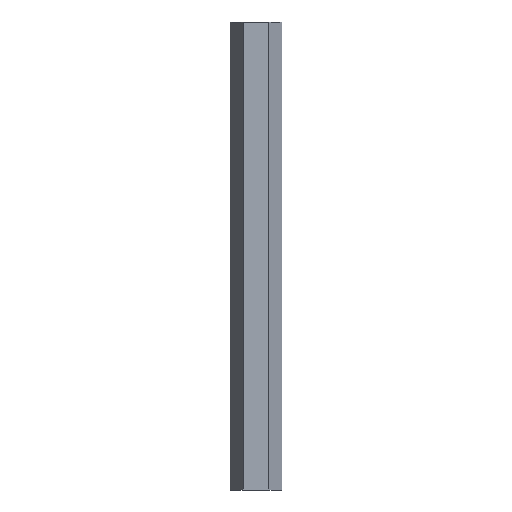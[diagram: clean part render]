
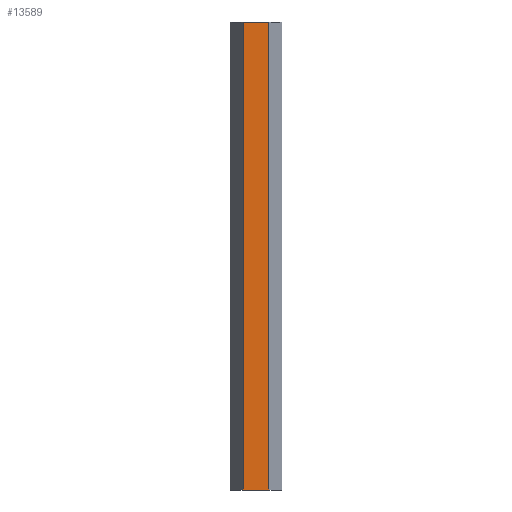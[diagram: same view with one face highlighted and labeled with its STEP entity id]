
A CAD part, front view. The second image highlights one B-rep face of the part: STEP entity #13589.
In plain terms, the highlighted planar face has unit normal (0, -1, 0).
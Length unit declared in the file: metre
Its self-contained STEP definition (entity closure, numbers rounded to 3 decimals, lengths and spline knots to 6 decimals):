
#549 = ORIENTED_EDGE ( 'NONE', *, *, #2288, .F. ) ;
#676 = CARTESIAN_POINT ( 'NONE',  ( 0.001155, -0.002, 0. ) ) ;
#830 = DIRECTION ( 'NONE',  ( 1., 0., 0. ) ) ;
#852 = AXIS2_PLACEMENT_3D ( 'NONE', #11205, #1794, #11282 ) ;
#1591 = EDGE_CURVE ( 'NONE', #10660, #14404, #7902, .T. ) ;
#1794 = DIRECTION ( 'NONE',  ( 0., -1., 0. ) ) ;
#2012 = CARTESIAN_POINT ( 'NONE',  ( -0.001155, -0.002, -0.042 ) ) ;
#2288 = EDGE_CURVE ( 'NONE', #10660, #14669, #6132, .T. ) ;
#2376 = VECTOR ( 'NONE', #9492, 1. ) ;
#2890 = FACE_OUTER_BOUND ( 'NONE', #7010, .T. ) ;
#2904 = EDGE_CURVE ( 'NONE', #14404, #11786, #13064, .T. ) ;
#4903 = CARTESIAN_POINT ( 'NONE',  ( -0.001155, -0.002, -0.042 ) ) ;
#5439 = CARTESIAN_POINT ( 'NONE',  ( -0.001155, -0.002, -0.042 ) ) ;
#5694 = ORIENTED_EDGE ( 'NONE', *, *, #1591, .T. ) ;
#5906 = CARTESIAN_POINT ( 'NONE',  ( 0.001155, -0.002, -0.042 ) ) ;
#6132 = LINE ( 'NONE', #4903, #10378 ) ;
#6444 = PLANE ( 'NONE',  #852 ) ;
#7010 = EDGE_LOOP ( 'NONE', ( #14812, #549, #5694, #11909 ) ) ;
#7587 = CARTESIAN_POINT ( 'NONE',  ( -0.001155, -0.002, 0. ) ) ;
#7886 = DIRECTION ( 'NONE',  ( 1., 0., 0. ) ) ;
#7902 = LINE ( 'NONE', #2012, #13099 ) ;
#8829 = LINE ( 'NONE', #7587, #13476 ) ;
#9418 = EDGE_CURVE ( 'NONE', #14669, #11786, #8829, .T. ) ;
#9492 = DIRECTION ( 'NONE',  ( 0., 0., 1. ) ) ;
#10378 = VECTOR ( 'NONE', #13134, 1. ) ;
#10660 = VERTEX_POINT ( 'NONE', #5439 ) ;
#10693 = CARTESIAN_POINT ( 'NONE',  ( 0.001155, -0.002, -0.042 ) ) ;
#11205 = CARTESIAN_POINT ( 'NONE',  ( -0.001155, -0.002, -0.042 ) ) ;
#11282 = DIRECTION ( 'NONE',  ( 1., 0., 0. ) ) ;
#11786 = VERTEX_POINT ( 'NONE', #676 ) ;
#11909 = ORIENTED_EDGE ( 'NONE', *, *, #2904, .T. ) ;
#13064 = LINE ( 'NONE', #5906, #2376 ) ;
#13099 = VECTOR ( 'NONE', #830, 1. ) ;
#13134 = DIRECTION ( 'NONE',  ( 0., 0., 1. ) ) ;
#13476 = VECTOR ( 'NONE', #7886, 1. ) ;
#13589 = ADVANCED_FACE ( 'NONE', ( #2890 ), #6444, .T. ) ;
#14404 = VERTEX_POINT ( 'NONE', #10693 ) ;
#14485 = CARTESIAN_POINT ( 'NONE',  ( -0.001155, -0.002, 0. ) ) ;
#14669 = VERTEX_POINT ( 'NONE', #14485 ) ;
#14812 = ORIENTED_EDGE ( 'NONE', *, *, #9418, .F. ) ;
